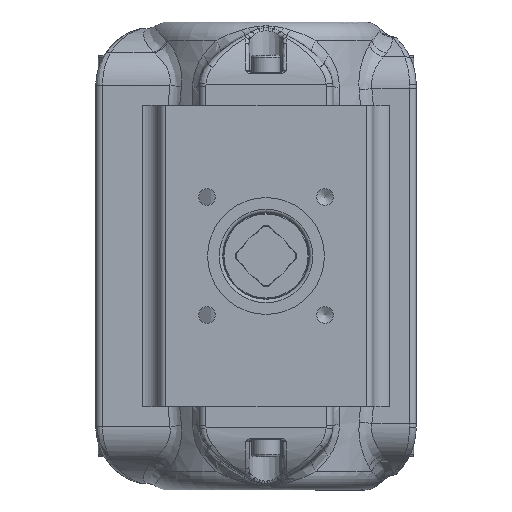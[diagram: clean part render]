
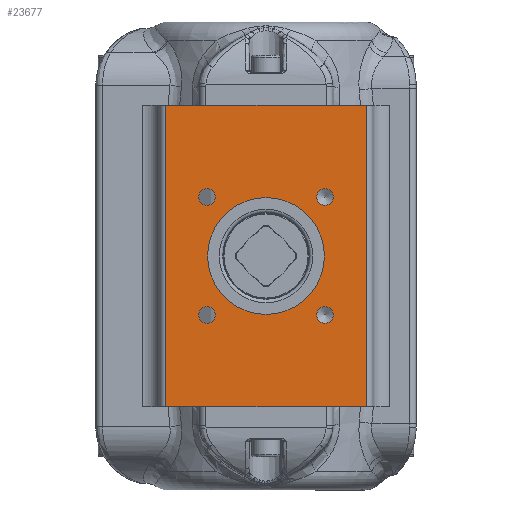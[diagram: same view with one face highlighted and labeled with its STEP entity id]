
A CAD part, front view. The second image highlights one B-rep face of the part: STEP entity #23677.
In plain terms, the highlighted planar face has unit normal (0, -1, 0).
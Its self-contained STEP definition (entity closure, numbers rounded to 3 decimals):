
#526=FACE_BOUND('',#4176,.T.);
#527=FACE_BOUND('',#4177,.T.);
#528=FACE_BOUND('',#4178,.T.);
#529=FACE_BOUND('',#4179,.T.);
#530=FACE_BOUND('',#4180,.T.);
#699=PLANE('',#25506);
#2762=FACE_OUTER_BOUND('',#4175,.T.);
#4175=EDGE_LOOP('',(#16307,#16308,#16309,#16310));
#4176=EDGE_LOOP('',(#16311));
#4177=EDGE_LOOP('',(#16312));
#4178=EDGE_LOOP('',(#16313));
#4179=EDGE_LOOP('',(#16314));
#4180=EDGE_LOOP('',(#16315));
#5673=CIRCLE('',#25507,2.459);
#5674=CIRCLE('',#25508,2.459);
#5675=CIRCLE('',#25509,2.459);
#5676=CIRCLE('',#25510,2.459);
#5677=CIRCLE('',#25511,17.5);
#7102=LINE('',#37110,#7960);
#7108=LINE('',#37137,#7966);
#7109=LINE('',#37138,#7967);
#7110=LINE('',#37139,#7968);
#7960=VECTOR('',#29158,10.);
#7966=VECTOR('',#29174,10.);
#7967=VECTOR('',#29175,10.);
#7968=VECTOR('',#29176,10.);
#9140=VERTEX_POINT('',#37106);
#9141=VERTEX_POINT('',#37108);
#9148=VERTEX_POINT('',#37135);
#9149=VERTEX_POINT('',#37136);
#9150=VERTEX_POINT('',#37140);
#9151=VERTEX_POINT('',#37142);
#9152=VERTEX_POINT('',#37144);
#9153=VERTEX_POINT('',#37146);
#9154=VERTEX_POINT('',#37148);
#11764=EDGE_CURVE('',#9141,#9140,#7102,.T.);
#11774=EDGE_CURVE('',#9148,#9149,#7108,.T.);
#11775=EDGE_CURVE('',#9148,#9140,#7109,.T.);
#11776=EDGE_CURVE('',#9141,#9149,#7110,.T.);
#11777=EDGE_CURVE('',#9150,#9150,#5673,.T.);
#11778=EDGE_CURVE('',#9151,#9151,#5674,.T.);
#11779=EDGE_CURVE('',#9152,#9152,#5675,.T.);
#11780=EDGE_CURVE('',#9153,#9153,#5676,.T.);
#11781=EDGE_CURVE('',#9154,#9154,#5677,.T.);
#16307=ORIENTED_EDGE('',*,*,#11774,.F.);
#16308=ORIENTED_EDGE('',*,*,#11775,.T.);
#16309=ORIENTED_EDGE('',*,*,#11764,.F.);
#16310=ORIENTED_EDGE('',*,*,#11776,.T.);
#16311=ORIENTED_EDGE('',*,*,#11777,.T.);
#16312=ORIENTED_EDGE('',*,*,#11778,.T.);
#16313=ORIENTED_EDGE('',*,*,#11779,.T.);
#16314=ORIENTED_EDGE('',*,*,#11780,.T.);
#16315=ORIENTED_EDGE('',*,*,#11781,.T.);
#23677=ADVANCED_FACE('',(#2762,#526,#527,#528,#529,#530),#699,.T.);
#25506=AXIS2_PLACEMENT_3D('',#37134,#29172,#29173);
#25507=AXIS2_PLACEMENT_3D('',#37141,#29177,#29178);
#25508=AXIS2_PLACEMENT_3D('',#37143,#29179,#29180);
#25509=AXIS2_PLACEMENT_3D('',#37145,#29181,#29182);
#25510=AXIS2_PLACEMENT_3D('',#37147,#29183,#29184);
#25511=AXIS2_PLACEMENT_3D('',#37149,#29185,#29186);
#29158=DIRECTION('',(0.,0.,-1.));
#29172=DIRECTION('center_axis',(0.,-1.,0.));
#29173=DIRECTION('ref_axis',(0.,0.,
1.));
#29174=DIRECTION('',(0.,0.,1.));
#29175=DIRECTION('',(1.,0.,0.));
#29176=DIRECTION('',(-1.,0.,0.));
#29177=DIRECTION('center_axis',(0.,1.,0.));
#29178=DIRECTION('ref_axis',(-1.,0.,0.));
#29179=DIRECTION('center_axis',(0.,1.,0.));
#29180=DIRECTION('ref_axis',(-1.,0.,0.));
#29181=DIRECTION('center_axis',(0.,1.,0.));
#29182=DIRECTION('ref_axis',(-1.,0.,0.));
#29183=DIRECTION('center_axis',(0.,1.,0.));
#29184=DIRECTION('ref_axis',(-1.,0.,0.));
#29185=DIRECTION('center_axis',(0.,1.,0.));
#29186=DIRECTION('ref_axis',(0.,0.,
-1.));
#37106=CARTESIAN_POINT('',(30.,-49.5,-45.15));
#37108=CARTESIAN_POINT('',(30.,-49.5,45.15));
#37110=CARTESIAN_POINT('',(30.,-49.5,0.));
#37134=CARTESIAN_POINT('Origin',(-32.,-49.5,0.));
#37135=CARTESIAN_POINT('',(-30.,-49.5,-45.15));
#37136=CARTESIAN_POINT('',(-30.,-49.5,45.15));
#37137=CARTESIAN_POINT('',(-30.,-49.5,0.));
#37138=CARTESIAN_POINT('',(32.,-49.5,-45.15));
#37139=CARTESIAN_POINT('',(32.,-49.5,45.15));
#37140=CARTESIAN_POINT('',(20.136,-49.5,-17.678));
#37141=CARTESIAN_POINT('Origin',(17.678,-49.5,-17.678));
#37142=CARTESIAN_POINT('',(-15.219,-49.5,17.678));
#37143=CARTESIAN_POINT('Origin',(-17.678,-49.5,17.678));
#37144=CARTESIAN_POINT('',(20.136,-49.5,17.678));
#37145=CARTESIAN_POINT('Origin',(17.678,-49.5,17.678));
#37146=CARTESIAN_POINT('',(-15.219,-49.5,-17.678));
#37147=CARTESIAN_POINT('Origin',(-17.678,-49.5,-17.678));
#37148=CARTESIAN_POINT('',(0.,-49.5,17.5));
#37149=CARTESIAN_POINT('Origin',(0.,-49.5,0.));
